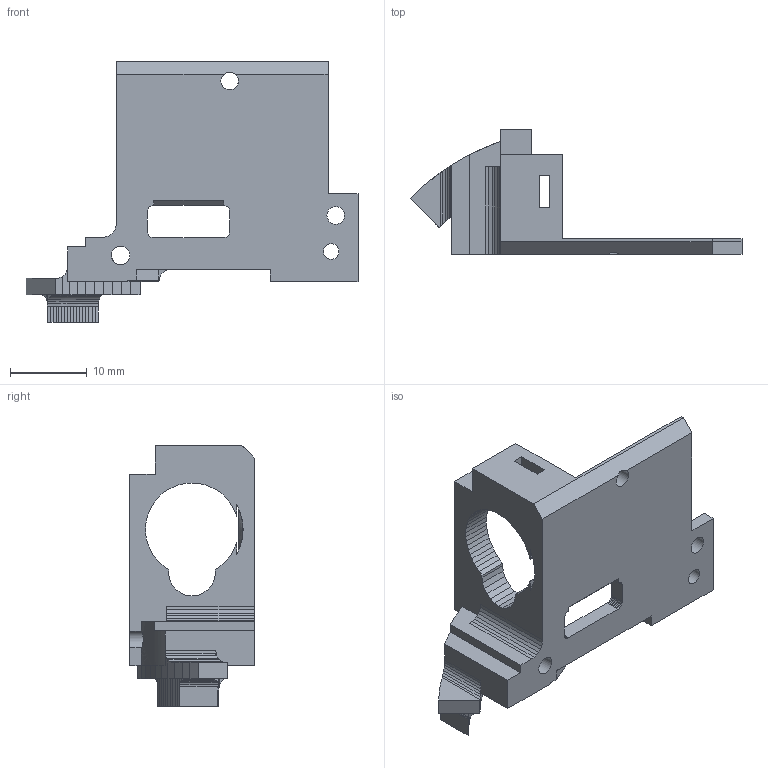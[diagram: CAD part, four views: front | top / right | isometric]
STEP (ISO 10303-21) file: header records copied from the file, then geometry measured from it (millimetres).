
FILE_DESCRIPTION(('Open CASCADE Model'),'2;1');
FILE_NAME('Open CASCADE Shape Model','2026-11-23T18:10:15',('Author'),( 'Open CASCADE'),'Open CASCADE STEP processor 8.0','build123d', 'Unknown');
FILE_SCHEMA(('AUTOMOTIVE_DESIGN { 1 0 10303 214 1 1 1 1 }'));
Length unit declared in the file: millimetre
Products named in the file (1): SOLID
Bounding box: 43.21 x 16.2 x 33.9 mm (x, y, z)
Volume: 3263 mm3; surface area: 3288.3 mm2
Topology: 1 solids, 1 shells, 287 faces, 844 edges, 557 vertices
Faces by surface type: plane 269, cylinder 9, cone 8, sphere 1
Full cylindrical faces by diameter (mm): 2.05 x1, 2.3 x4, 2.4 x1
Entity records: 19969 total; most frequent: CARTESIAN_POINT 4333, DIRECTION 2491, LINE 1780, VECTOR 1780, ORIENTED_EDGE 1688, PCURVE 1688, DEFINITIONAL_REPRESENTATION 1688, EDGE_CURVE 844
